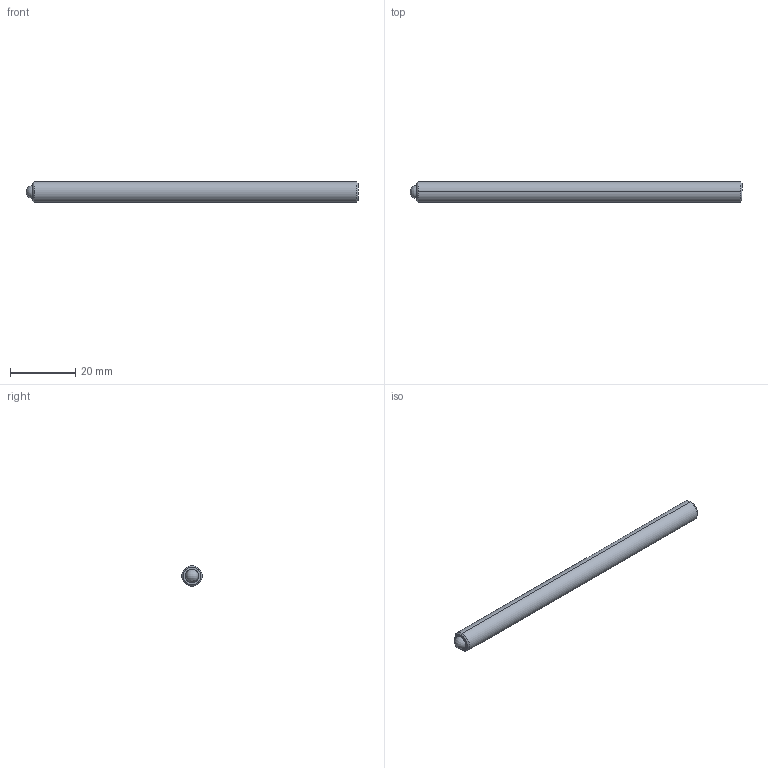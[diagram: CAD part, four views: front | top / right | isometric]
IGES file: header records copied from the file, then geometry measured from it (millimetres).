
Start section: SolidWorks IGES file using analytic representation for surfaces
Global section: file name: C:\Users\workpc\Desktop\KMA Solidworks\TS250-80-4000.IGS; native system: SolidWorks 2013; preprocessor: SolidWorks 2013; author: workpc; date: 130211.161330; units: inch
Bounding box: 101.59 x 6.35 x 6.35 mm (x, y, z)
Surface area: 2131.1 mm2 (no closed solid volume)
Topology: 0 solids, 0 shells, 20 faces, 204 edges, 200 vertices
Faces by surface type: revolution 10, bspline 10
